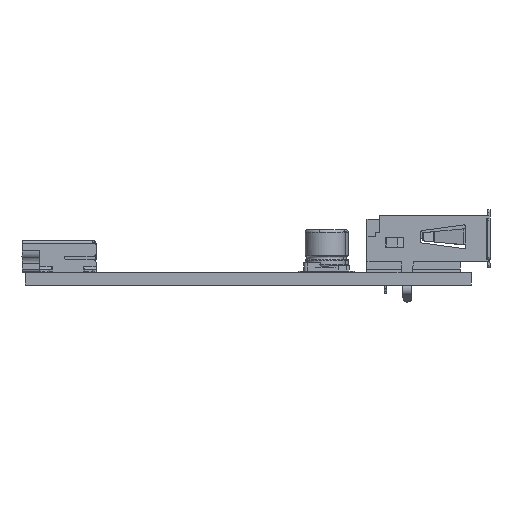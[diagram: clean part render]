
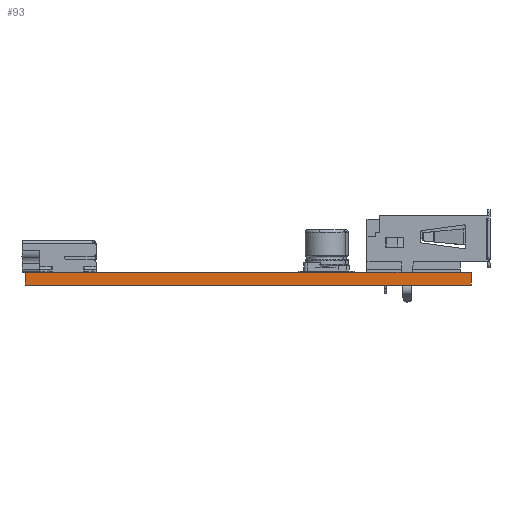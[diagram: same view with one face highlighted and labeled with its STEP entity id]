
A CAD part, front view. The second image highlights one B-rep face of the part: STEP entity #93.
In plain terms, the highlighted planar face has unit normal (0, -1, 0).
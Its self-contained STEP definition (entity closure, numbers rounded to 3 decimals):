
#57 = EDGE_CURVE('',#58,#60,#62,.T.);
#58 = VERTEX_POINT('',#59);
#59 = CARTESIAN_POINT('',(102.59,-120.91,0.));
#60 = VERTEX_POINT('',#61);
#61 = CARTESIAN_POINT('',(102.59,-120.91,-1.6));
#62 = LINE('',#63,#64);
#63 = CARTESIAN_POINT('',(102.59,-120.91,0.));
#64 = VECTOR('',#65,1.);
#65 = DIRECTION('',(0.,0.,-1.));
#93 = ADVANCED_FACE('',(#94),#119,.F.);
#94 = FACE_BOUND('',#95,.F.);
#95 = EDGE_LOOP('',(#96,#106,#112,#113));
#96 = ORIENTED_EDGE('',*,*,#97,.T.);
#97 = EDGE_CURVE('',#98,#100,#102,.T.);
#98 = VERTEX_POINT('',#99);
#99 = CARTESIAN_POINT('',(157.9,-120.91,0.));
#100 = VERTEX_POINT('',#101);
#101 = CARTESIAN_POINT('',(157.9,-120.91,-1.6));
#102 = LINE('',#103,#104);
#103 = CARTESIAN_POINT('',(157.9,-120.91,0.));
#104 = VECTOR('',#105,1.);
#105 = DIRECTION('',(0.,0.,-1.));
#106 = ORIENTED_EDGE('',*,*,#107,.T.);
#107 = EDGE_CURVE('',#100,#60,#108,.T.);
#108 = LINE('',#109,#110);
#109 = CARTESIAN_POINT('',(157.9,-120.91,-1.6));
#110 = VECTOR('',#111,1.);
#111 = DIRECTION('',(-1.,0.,0.));
#112 = ORIENTED_EDGE('',*,*,#57,.F.);
#113 = ORIENTED_EDGE('',*,*,#114,.F.);
#114 = EDGE_CURVE('',#98,#58,#115,.T.);
#115 = LINE('',#116,#117);
#116 = CARTESIAN_POINT('',(157.9,-120.91,0.));
#117 = VECTOR('',#118,1.);
#118 = DIRECTION('',(-1.,0.,0.));
#119 = PLANE('',#120);
#120 = AXIS2_PLACEMENT_3D('',#121,#122,#123);
#121 = CARTESIAN_POINT('',(157.9,-120.91,0.));
#122 = DIRECTION('',(0.,1.,0.));
#123 = DIRECTION('',(-1.,0.,0.));
